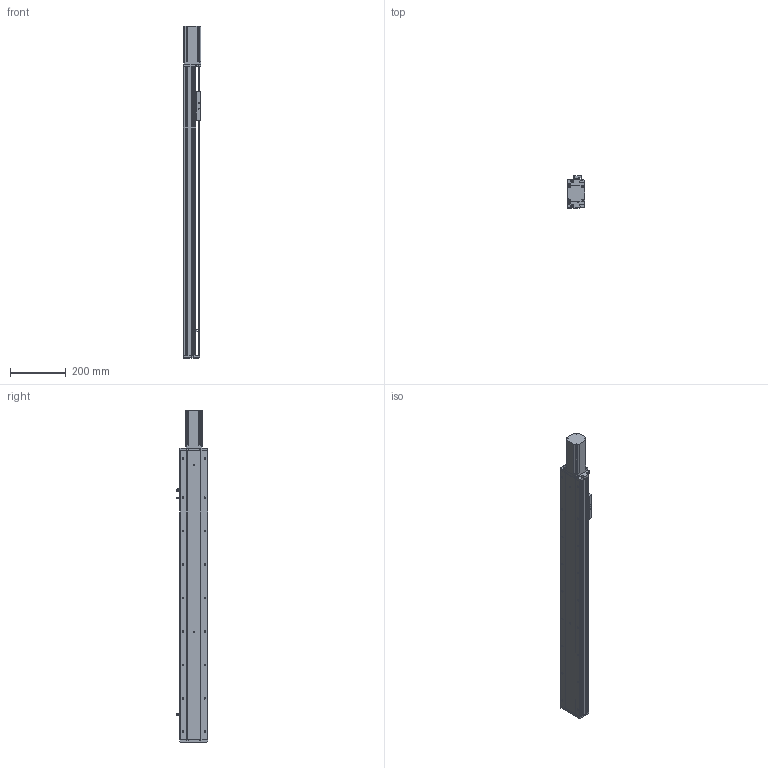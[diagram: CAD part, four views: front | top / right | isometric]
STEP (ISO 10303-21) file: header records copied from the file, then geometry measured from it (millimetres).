
FILE_DESCRIPTION (( 'STEP AP214' ), '1' );
FILE_NAME ('KSD100S-S800-MN-CM.STEP', '2019-08-30T07:42:18', ( '微软用户' ), ( '微软中国' ), 'SwSTEP 2.0', 'SolidWorks 2014', '' );
FILE_SCHEMA (( 'AUTOMOTIVE_DESIGN' ));
Length unit declared in the file: millimetre
Products named in the file (9): U倰嫖萇EEㄜSX672; 100宽防尘板丝杆800行程不带电机座; 100宽马达安装板不带电机座; 100宽滚珠螺姆安装板半封闭; 100遵傷啣; 100宽底板半封闭800行程丝杆不带电机座; KSD100S-S800-MN-CM; 台达ECMA－C20604AS伺服电机; 覜茼え100遵圉猾敕
Assembly tree (10 placements, depth 2):
  KSD100S-S800-MN-CM
    100宽底板半封闭800行程丝杆不带电机座
    100遵傷啣
    100宽滚珠螺姆安装板半封闭
    100宽马达安装板不带电机座
    100宽防尘板丝杆800行程不带电机座
    U倰嫖萇EEㄜSX672  x3
    覜茼え100遵圉猾敕
    台达ECMA－C20604AS伺服电机
Bounding box: 62 x 113.7 x 1192 mm (x, y, z)
Volume: 2479924 mm3; surface area: 777483.9 mm2
Topology: 11 solids, 11 shells, 1152 faces, 3266 edges, 2057 vertices
Faces by surface type: cylinder 553, plane 464, cone 135
Entity records: 40124 total; most frequent: CARTESIAN_POINT 8246, DIRECTION 5305, ORIENTED_EDGE 5168, EDGE_CURVE 2584, AXIS2_PLACEMENT_3D 1920, VERTEX_POINT 1681, VECTOR 1465, LINE 1465
